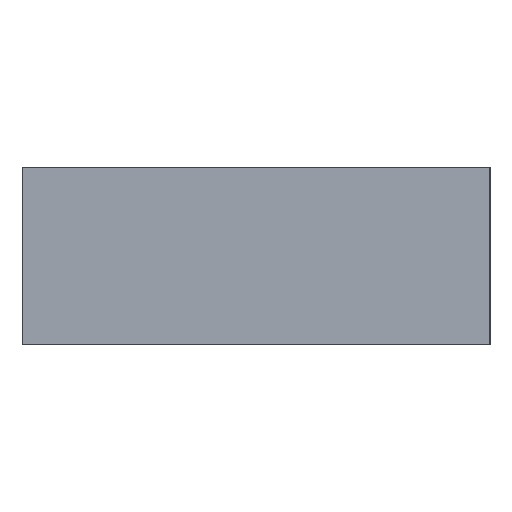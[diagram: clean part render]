
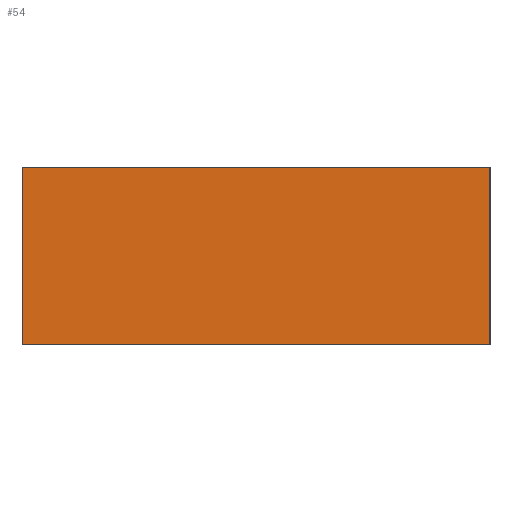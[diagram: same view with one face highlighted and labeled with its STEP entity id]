
A CAD part, left-side view. The second image highlights one B-rep face of the part: STEP entity #54.
In plain terms, the highlighted planar face has unit normal (-1, 0, 0).
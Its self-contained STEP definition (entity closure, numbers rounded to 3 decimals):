
#54 = ADVANCED_FACE( '', ( #125 ), #126, .F. );
#125 = FACE_OUTER_BOUND( '', #214, .T. );
#126 = PLANE( '', #215 );
#214 = EDGE_LOOP( '', ( #309, #310, #311, #312 ) );
#215 = AXIS2_PLACEMENT_3D( '', #313, #314, #315 );
#309 = ORIENTED_EDGE( '', *, *, #518, .T. );
#310 = ORIENTED_EDGE( '', *, *, #524, .F. );
#311 = ORIENTED_EDGE( '', *, *, #526, .F. );
#312 = ORIENTED_EDGE( '', *, *, #527, .T. );
#313 = CARTESIAN_POINT( '', ( -6.55, 0., 6.075 ) );
#314 = DIRECTION( '', ( 1., 0., 0. ) );
#315 = DIRECTION( '', ( 0., 0., -1. ) );
#518 = EDGE_CURVE( '', #608, #606, #609, .T. );
#524 = EDGE_CURVE( '', #616, #606, #618, .T. );
#526 = EDGE_CURVE( '', #620, #616, #621, .T. );
#527 = EDGE_CURVE( '', #620, #608, #622, .T. );
#606 = VERTEX_POINT( '', #734 );
#608 = VERTEX_POINT( '', #737 );
#609 = LINE( '', #738, #739 );
#616 = VERTEX_POINT( '', #749 );
#618 = LINE( '', #752, #753 );
#620 = VERTEX_POINT( '', #755 );
#621 = LINE( '', #756, #757 );
#622 = LINE( '', #758, #759 );
#734 = CARTESIAN_POINT( '', ( -6.55, -32., -6.075 ) );
#737 = CARTESIAN_POINT( '', ( -6.55, 0., -6.075 ) );
#738 = CARTESIAN_POINT( '', ( -6.55, 0., -6.075 ) );
#739 = VECTOR( '', #911, 1000. );
#749 = CARTESIAN_POINT( '', ( -6.55, -32., 6.075 ) );
#752 = CARTESIAN_POINT( '', ( -6.55, -32., 6.075 ) );
#753 = VECTOR( '', #916, 1000. );
#755 = CARTESIAN_POINT( '', ( -6.55, 0., 6.075 ) );
#756 = CARTESIAN_POINT( '', ( -6.55, 0., 6.075 ) );
#757 = VECTOR( '', #917, 1000. );
#758 = CARTESIAN_POINT( '', ( -6.55, 0., 6.075 ) );
#759 = VECTOR( '', #918, 1000. );
#911 = DIRECTION( '', ( 0., -1., 0. ) );
#916 = DIRECTION( '', ( 0., 0., -1. ) );
#917 = DIRECTION( '', ( 0., -1., 0. ) );
#918 = DIRECTION( '', ( 0., 0., -1. ) );
